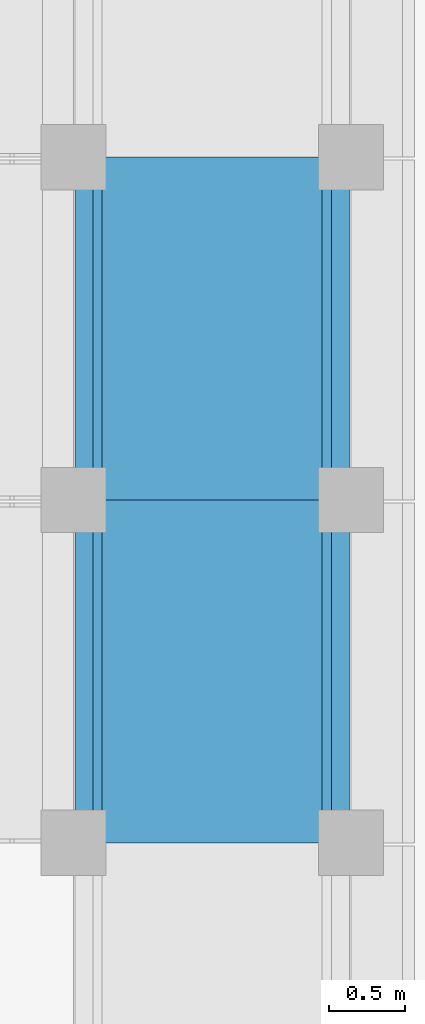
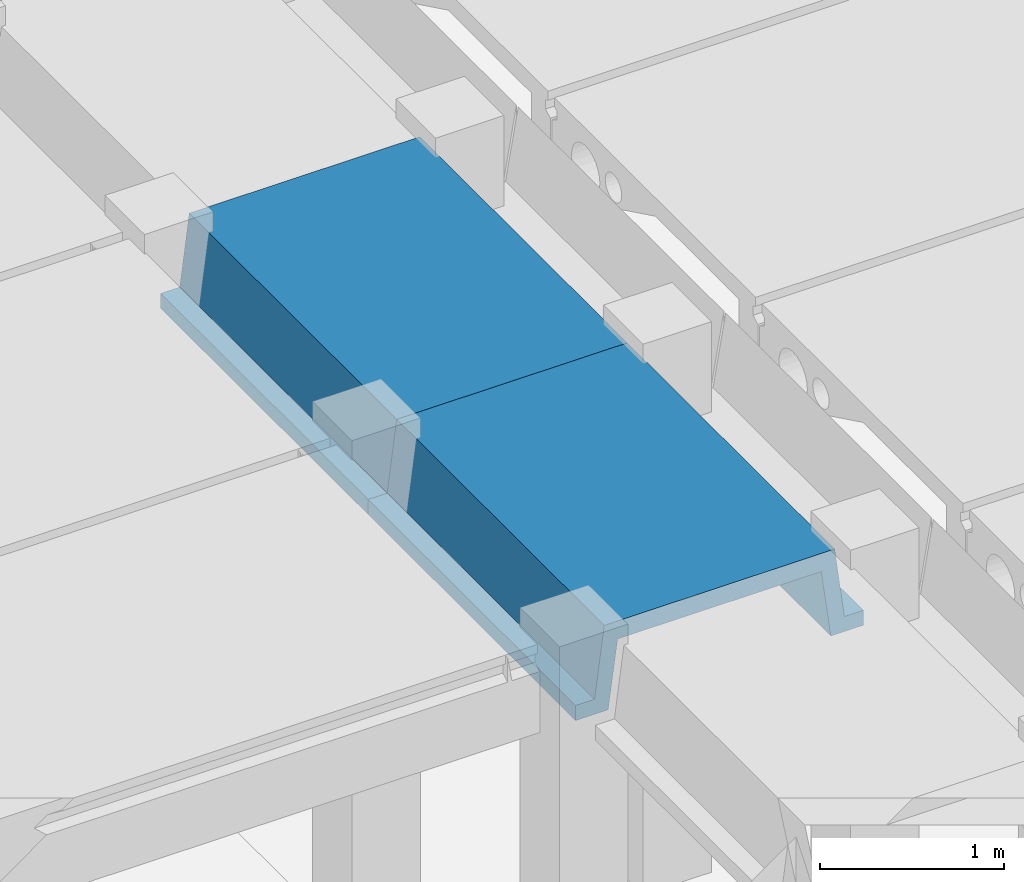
# One storey, part 14 of 25: 2 beams.
"""IFC2X3 building model written with IfcOpenShell, lengths in millimetres."""

import ifcopenshell
import ifcopenshell.guid

model = None  # the IFC model being written
_history = None  # IfcOwnerHistory: only IFC2X3 demands one
_inside = {}  # id of a spatial element -> (the spatial element, [elements in it])
_under = {}  # id of a project, library or spatial element -> (it, [spatial elements below it])
_declared = {}  # id of a project -> (the project, [libraries it declares])
_typed = {}  # id of a type object -> (the type object, [elements of that type])
_made_of = {}  # id of a material, layer set ... -> (it, [elements and type objects made of it])


def new_model(schema):
    """Start an empty IFC model of exactly this schema.

    Asked for "IFC4X3", IfcOpenShell would pick the latest addendum, in which some entities
    have other attributes; the version numbers below select the first issue.
    IFC2X3 requires an IfcOwnerHistory on every rooted entity: one is made here for all.
    """
    global model, _history
    if schema == "IFC4X3":
        model = ifcopenshell.file(schema_version=(4, 3, 0, 0))
    else:
        model = ifcopenshell.file(schema=schema)
    _inside.clear()
    _under.clear()
    _declared.clear()
    _typed.clear()
    _made_of.clear()
    _history = None
    if model.schema == "IFC2X3":
        org = make("IfcOrganization", Name="unknown")
        user = make(
            "IfcPersonAndOrganization",
            ThePerson=make("IfcPerson", FamilyName="unknown"),
            TheOrganization=org,
        )
        app = make(
            "IfcApplication",
            ApplicationDeveloper=org,
            Version="unknown",
            ApplicationFullName="unknown",
            ApplicationIdentifier="unknown",
        )
        _history = make(
            "IfcOwnerHistory",
            OwningUser=user,
            OwningApplication=app,
            ChangeAction="ADDED",
            CreationDate=0,
        )
    return model


def make(cls, **values):
    """One entity of the class cls with the attributes given. An attribute that is None is left unset."""
    return model.create_entity(
        cls, **{name: value for name, value in values.items() if value is not None}
    )


def entity(cls, *values):
    """Any entity or typed value of the class cls, its attributes in the order of the schema. None: left unset."""
    e = model.create_entity(cls)
    for i, value in enumerate(values):
        if value is not None:
            e[i] = value
    return e


def rooted(cls, **values):
    """An entity with a GlobalId (a new one), such as an element, a storey or a relation."""
    return make(cls, GlobalId=ifcopenshell.guid.new(), OwnerHistory=_history, **values)


def si_unit(unit_type, name, prefix=None):
    """IfcSIUnit, for example si_unit("LENGTHUNIT", "METRE", prefix="MILLI")."""
    return make("IfcSIUnit", UnitType=unit_type, Prefix=prefix, Name=name)


def converted_unit(unit_type, name, factor, base, dimensions=None, offset=None):
    """IfcConversionBasedUnit, such as the inch: factor (a typed value) times the base unit."""
    return make(
        "IfcConversionBasedUnit"
        if offset is None
        else "IfcConversionBasedUnitWithOffset",
        ConversionOffset=offset,
        Dimensions=None
        if dimensions is None
        else entity("IfcDimensionalExponents", *dimensions),
        UnitType=unit_type,
        Name=name,
        ConversionFactor=make(
            "IfcMeasureWithUnit", ValueComponent=factor, UnitComponent=base
        ),
    )


def derived_unit(unit_type, elements):
    """IfcDerivedUnit: a product of units, each with its exponent."""
    return make(
        "IfcDerivedUnit",
        Elements=[
            make("IfcDerivedUnitElement", Unit=unit, Exponent=power)
            for unit, power in elements
        ],
        UnitType=unit_type,
    )


def assignment(units):
    """IfcUnitAssignment: the units of a project."""
    return None if units is None else make("IfcUnitAssignment", Units=units)


def point(xyz):
    """IfcCartesianPoint."""
    return None if xyz is None else make("IfcCartesianPoint", Coordinates=xyz)


def direction(xyz):
    """IfcDirection."""
    return None if xyz is None else make("IfcDirection", DirectionRatios=xyz)


def frame(location, z_axis=None, x_axis=None):
    """IfcAxis2Placement3D, a coordinate frame: its origin and axes. An axis left out is left unset."""
    return make(
        "IfcAxis2Placement3D",
        Location=point(location),
        Axis=direction(z_axis),
        RefDirection=direction(x_axis),
    )


def origin():
    """The frame at (0, 0, 0) with its axes left unset."""
    return frame((0.0, 0.0, 0.0))


def place(relative_to, where):
    """IfcLocalPlacement: puts the frame where relative to a parent placement (None: the world)."""
    return make(
        "IfcLocalPlacement", PlacementRelTo=relative_to, RelativePlacement=where
    )


def context(
    kind, dimensions, precision=None, world=None, true_north=None, identifier=None
):
    """IfcGeometricRepresentationContext, for example the 3D "Model" context."""
    return make(
        "IfcGeometricRepresentationContext",
        ContextIdentifier=identifier,
        ContextType=kind,
        CoordinateSpaceDimension=dimensions,
        Precision=precision,
        WorldCoordinateSystem=world,
        TrueNorth=true_north,
    )


def subcontext(parent, identifier, kind, view, scale=None):
    """IfcGeometricRepresentationSubContext, for example "Body" below "Model"."""
    return make(
        "IfcGeometricRepresentationSubContext",
        ContextIdentifier=identifier,
        ContextType=kind,
        ParentContext=parent,
        TargetScale=scale,
        TargetView=view,
    )


def project(units=None, contexts=None):
    """IfcProject with its units and contexts."""
    return rooted(
        "IfcProject",
        Name="project",
        RepresentationContexts=contexts,
        UnitsInContext=assignment(units),
    )


def spatial(cls, under=None, at=None, **own):
    """A site, building, storey or space (cls), placed at a placement, below another one or the project."""
    s = rooted(cls, ObjectPlacement=at, **own)
    if under is not None:
        _under.setdefault(under.id(), (under, []))[1].append(s)
    return s


def polyline(points):
    """IfcPolyline through the points."""
    return make("IfcPolyline", Points=[point(p) for p in points])


def outline(outer, holes=None, kind="AREA"):
    """IfcArbitraryClosedProfileDef: a profile drawn as a closed curve; with holes, ...WithVoids."""
    if holes is None:
        return make("IfcArbitraryClosedProfileDef", ProfileType=kind, OuterCurve=outer)
    return make(
        "IfcArbitraryProfileDefWithVoids",
        ProfileType=kind,
        OuterCurve=outer,
        InnerCurves=holes,
    )


def extrude(swept, where, along, depth):
    """IfcExtrudedAreaSolid: the profile swept, set in the frame where, extruded along a direction by depth."""
    return make(
        "IfcExtrudedAreaSolid",
        SweptArea=swept,
        Position=where,
        ExtrudedDirection=direction(along),
        Depth=depth,
    )


def shape(context_of_items, identifier, shape_type, items):
    """IfcShapeRepresentation: the items that make up one representation, for example the "Body"."""
    return make(
        "IfcShapeRepresentation",
        ContextOfItems=context_of_items,
        RepresentationIdentifier=identifier,
        RepresentationType=shape_type,
        Items=items,
    )


def material(Name=None, Category=None):
    """IfcMaterial."""
    return make("IfcMaterial", Name=Name, Category=Category)


def made_of(thing, what):
    """Note that an element or type object is made of a material, layer set ...; save() writes the relation."""
    if what is not None:
        _made_of.setdefault(what.id(), (what, []))[1].append(thing)
    return thing


def type_object(cls, material=None, **own):
    """A type object (cls), such as IfcWallType, which elements share."""
    return made_of(rooted(cls, **own), material)


def element(
    cls,
    number,
    at=None,
    inside=None,
    cuts=None,
    type_object=None,
    material=None,
    context=None,
    identifier="Body",
    shape_type=None,
    held_by="IfcProductDefinitionShape",
    body=None,
    shapes=None,
    **own,
):
    """One element of the class cls, such as IfcWall. Its Tag is "e" and its number.

    at: its placement. inside: the storey or other place that contains it. cuts: it is an
    opening in that element (IfcRelVoidsElement). A single representation is given by context,
    identifier, shape_type and body (its items); several are given by shapes. held_by: the class
    of the entity that holds the representations. save() writes the other relations.
    """
    e = rooted(cls, Tag="e%d" % number, ObjectPlacement=at, **own)
    if body is not None:
        shapes = [shape(context, identifier, shape_type, body)]
    if shapes is not None:
        e.Representation = make(held_by, Representations=shapes)
    if inside is not None:
        _inside.setdefault(inside.id(), (inside, []))[1].append(e)
    if cuts is not None:
        rooted(
            "IfcRelVoidsElement", RelatingBuildingElement=cuts, RelatedOpeningElement=e
        )
    if type_object is not None:
        _typed.setdefault(type_object.id(), (type_object, []))[1].append(e)
    return made_of(e, material)


def aggregate(whole, parts):
    """IfcRelAggregates: a whole, such as a stair, and the parts it consists of."""
    return rooted("IfcRelAggregates", RelatingObject=whole, RelatedObjects=parts)


def save(model, path):
    """Write the relations noted so far, then the file.

    IfcRelAggregates (storeys below a building ...), IfcRelContainedInSpatialStructure (elements
    in a storey), IfcRelDefinesByType, IfcRelAssociatesMaterial and IfcRelDeclares: one each for
    every whole, place, type object, material and project.
    """
    for whole, parts in _under.values():
        aggregate(whole, parts)
    for where, things in _inside.values():
        rooted(
            "IfcRelContainedInSpatialStructure",
            RelatedElements=things,
            RelatingStructure=where,
        )
    for kind, things in _typed.values():
        rooted("IfcRelDefinesByType", RelatedObjects=things, RelatingType=kind)
    for what, things in _made_of.values():
        rooted("IfcRelAssociatesMaterial", RelatedObjects=things, RelatingMaterial=what)
    for by, libraries in _declared.values():
        rooted("IfcRelDeclares", RelatingContext=by, RelatedDefinitions=libraries)
    model.write(path)


model = new_model("IFC2X3")

# Units and contexts
model_context = context("Model", 3, precision=0.01, world=origin(), true_north=direction((6.12303176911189e-17, 1.0)))
body_context = subcontext(model_context, "Body", "Model", "MODEL_VIEW")
ifc_project = project(units=[si_unit("LENGTHUNIT", "METRE", prefix="MILLI"), si_unit("AREAUNIT", "SQUARE_METRE"), si_unit("VOLUMEUNIT", "CUBIC_METRE"), converted_unit("PLANEANGLEUNIT", "DEGREE", entity("IfcRatioMeasure", 0.0174532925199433), si_unit("PLANEANGLEUNIT", "RADIAN"), dimensions=[0, 0, 0, 0, 0, 0, 0]), si_unit("MASSUNIT", "GRAM", prefix="KILO"), derived_unit("MASSDENSITYUNIT", [(si_unit("MASSUNIT", "GRAM", prefix="KILO"), 1), (si_unit("LENGTHUNIT", "METRE"), -3)]), derived_unit("MOMENTOFINERTIAUNIT", [(si_unit("LENGTHUNIT", "METRE"), 4)]), si_unit("TIMEUNIT", "SECOND"), si_unit("FREQUENCYUNIT", "HERTZ"), si_unit("THERMODYNAMICTEMPERATUREUNIT", "DEGREE_CELSIUS"), derived_unit("THERMALTRANSMITTANCEUNIT", [(si_unit("MASSUNIT", "GRAM", prefix="KILO"), 1), (si_unit("THERMODYNAMICTEMPERATUREUNIT", "KELVIN"), -1), (si_unit("TIMEUNIT", "SECOND"), -3)]), derived_unit("VOLUMETRICFLOWRATEUNIT", [(si_unit("LENGTHUNIT", "METRE"), 3), (si_unit("TIMEUNIT", "SECOND"), -1)]), si_unit("ELECTRICCURRENTUNIT", "AMPERE"), si_unit("ELECTRICVOLTAGEUNIT", "VOLT"), si_unit("POWERUNIT", "WATT"), si_unit("FORCEUNIT", "NEWTON", prefix="KILO"), si_unit("ILLUMINANCEUNIT", "LUX"), si_unit("LUMINOUSFLUXUNIT", "LUMEN"), si_unit("LUMINOUSINTENSITYUNIT", "CANDELA"), derived_unit("USERDEFINED", [(si_unit("MASSUNIT", "GRAM", prefix="KILO"), -1), (si_unit("LENGTHUNIT", "METRE"), -2), (si_unit("TIMEUNIT", "SECOND"), 3), (si_unit("LUMINOUSFLUXUNIT", "LUMEN"), 1)]), derived_unit("LINEARVELOCITYUNIT", [(si_unit("LENGTHUNIT", "METRE"), 1), (si_unit("TIMEUNIT", "SECOND"), -1)]), si_unit("PRESSUREUNIT", "PASCAL"), derived_unit("USERDEFINED", [(si_unit("LENGTHUNIT", "METRE"), -2), (si_unit("MASSUNIT", "GRAM", prefix="KILO"), 1), (si_unit("TIMEUNIT", "SECOND"), -2)]), derived_unit("LINEARFORCEUNIT", [(si_unit("MASSUNIT", "GRAM", prefix="KILO"), 1), (si_unit("LENGTHUNIT", "METRE"), 1), (si_unit("TIMEUNIT", "SECOND"), -2), (si_unit("LENGTHUNIT", "METRE"), -1)]), derived_unit("PLANARFORCEUNIT", [(si_unit("MASSUNIT", "GRAM", prefix="KILO"), 1), (si_unit("LENGTHUNIT", "METRE"), 1), (si_unit("TIMEUNIT", "SECOND"), -2), (si_unit("LENGTHUNIT", "METRE"), -2)])], contexts=[model_context])

# Site, building, storey
site_placement = place(None, frame((10627.5135316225, 21939.0796949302, 0.0)))
site = spatial("IfcSite", under=ifc_project, at=site_placement, Name="Default", CompositionType="ELEMENT")
building_placement = place(site_placement, origin())
building = spatial("IfcBuilding", under=site, at=building_placement, CompositionType="ELEMENT")
storey_placement = place(building_placement, origin())
storey = spatial("IfcBuildingStorey", under=building, at=storey_placement, Name="RDC", CompositionType="ELEMENT", Elevation=0.0)

# Beams
ifc_material = material(Name="Concrete, Precast Smooth, Light Grey")
beam_type = type_object("IfcBeamType", Name="Poutre petite:Poutre petite", PredefinedType="NOTDEFINED")
for number, where, z_axis, x_axis, name in (
    (1, (52487.4864683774, -12899.0796949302, 3530.0), (0.0, 0.0, 1.0), (0.0, 1.0, 0.0), "Poutre petite:Poutre petite"),
    (2, (52487.4864683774, -15159.0796949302, 3530.0), (0.0, 0.0, 1.0), (0.0, 1.0, 0.0), "Poutre petite:Poutre petite"),
):
    element("IfcBeam", number, at=place(storey_placement, frame(where, z_axis=z_axis, x_axis=x_axis)), inside=storey, type_object=beam_type, material=ifc_material, Name=name, ObjectType="Poutre petite:Poutre petite", context=body_context, shape_type="SweptSolid", body=[
        extrude(outline(polyline([(103.333217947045, -905.014058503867), (203.333564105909, -905.014058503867), (203.333564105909, -700.0135432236), (-246.666782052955, -640.013497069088), (-246.666782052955, 640.013684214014), (203.333564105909, 700.013730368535), (203.333564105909, 905.013684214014), (103.333217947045, 905.013684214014), (103.333217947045, 785.013684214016), (-366.666782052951, 725.01368421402), (-366.666782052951, -725.013497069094), (103.333217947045, -785.013497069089), (103.333217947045, -905.014058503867)])), frame((0.0, 0.000187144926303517, -366.666782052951), z_axis=(1.0, 0.0, 0.0), x_axis=(0.0, 0.0, -1.0)), (0.0, 0.0, 1.0), 2260.0),
    ])

save(model, "model.ifc")
